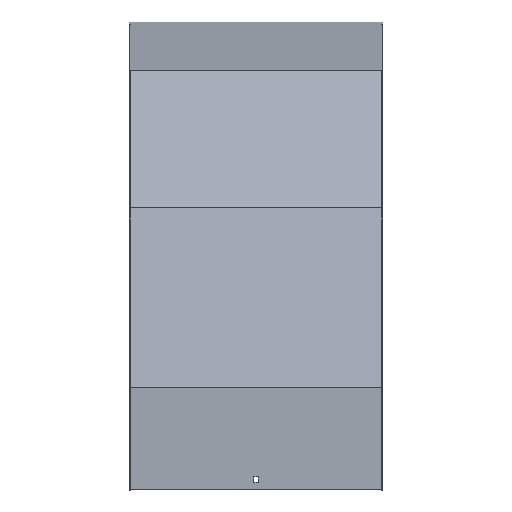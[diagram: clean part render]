
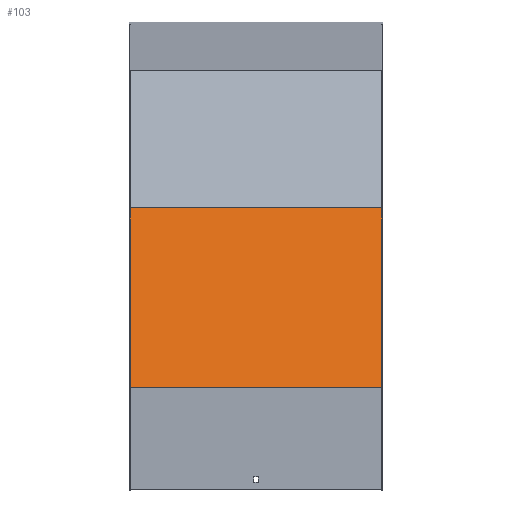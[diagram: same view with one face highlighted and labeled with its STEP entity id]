
A CAD part, top view. The second image highlights one B-rep face of the part: STEP entity #103.
In plain terms, the highlighted planar face has unit normal (0, 0.259, 0.966).
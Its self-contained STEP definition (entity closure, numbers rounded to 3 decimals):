
#22 = VECTOR ( 'NONE', #595, 1000. ) ;
#88 = LINE ( 'NONE', #767, #499 ) ;
#103 = ADVANCED_FACE ( 'NONE', ( #761 ), #161, .F. ) ;
#114 = DIRECTION ( 'NONE',  ( 0., -0.966, 0.259 ) ) ;
#161 = PLANE ( 'NONE',  #446 ) ;
#180 = ORIENTED_EDGE ( 'NONE', *, *, #379, .F. ) ;
#186 = EDGE_CURVE ( 'NONE', #349, #673, #247, .T. ) ;
#247 = LINE ( 'NONE', #936, #22 ) ;
#250 = VERTEX_POINT ( 'NONE', #940 ) ;
#252 = EDGE_CURVE ( 'NONE', #805, #349, #523, .T. ) ;
#267 = CARTESIAN_POINT ( 'NONE',  ( -201.5, -275.871, 668.509 ) ) ;
#292 = EDGE_CURVE ( 'NONE', #250, #673, #88, .T. ) ;
#294 = LINE ( 'NONE', #968, #545 ) ;
#349 = VERTEX_POINT ( 'NONE', #267 ) ;
#379 = EDGE_CURVE ( 'NONE', #805, #250, #294, .T. ) ;
#411 = ORIENTED_EDGE ( 'NONE', *, *, #252, .T. ) ;
#440 = EDGE_LOOP ( 'NONE', ( #605, #700, #180, #411 ) ) ;
#446 = AXIS2_PLACEMENT_3D ( 'NONE', #504, #569, #750 ) ;
#499 = VECTOR ( 'NONE', #930, 1000. ) ;
#504 = CARTESIAN_POINT ( 'NONE',  ( 201.5, -281.047, 669.896 ) ) ;
#523 = LINE ( 'NONE', #872, #857 ) ;
#539 = CARTESIAN_POINT ( 'NONE',  ( 201.5, -275.871, 668.509 ) ) ;
#545 = VECTOR ( 'NONE', #114, 1000. ) ;
#569 = DIRECTION ( 'NONE',  ( 0., -0.259, -0.966 ) ) ;
#595 = DIRECTION ( 'NONE',  ( 0., -0.966, 0.259 ) ) ;
#605 = ORIENTED_EDGE ( 'NONE', *, *, #186, .T. ) ;
#673 = VERTEX_POINT ( 'NONE', #841 ) ;
#700 = ORIENTED_EDGE ( 'NONE', *, *, #292, .F. ) ;
#750 = DIRECTION ( 'NONE',  ( 0., 0.966, -0.259 ) ) ;
#761 = FACE_OUTER_BOUND ( 'NONE', #440, .T. ) ;
#767 = CARTESIAN_POINT ( 'NONE',  ( 201.5, -562.743, 745.376 ) ) ;
#805 = VERTEX_POINT ( 'NONE', #539 ) ;
#841 = CARTESIAN_POINT ( 'NONE',  ( -201.5, -562.743, 745.376 ) ) ;
#857 = VECTOR ( 'NONE', #955, 1000. ) ;
#872 = CARTESIAN_POINT ( 'NONE',  ( 201.5, -275.871, 668.509 ) ) ;
#930 = DIRECTION ( 'NONE',  ( -1., 0., 0. ) ) ;
#936 = CARTESIAN_POINT ( 'NONE',  ( -201.5, -281.047, 669.896 ) ) ;
#940 = CARTESIAN_POINT ( 'NONE',  ( 201.5, -562.743, 745.376 ) ) ;
#955 = DIRECTION ( 'NONE',  ( -1., 0., 0. ) ) ;
#968 = CARTESIAN_POINT ( 'NONE',  ( 201.5, -281.047, 669.896 ) ) ;
